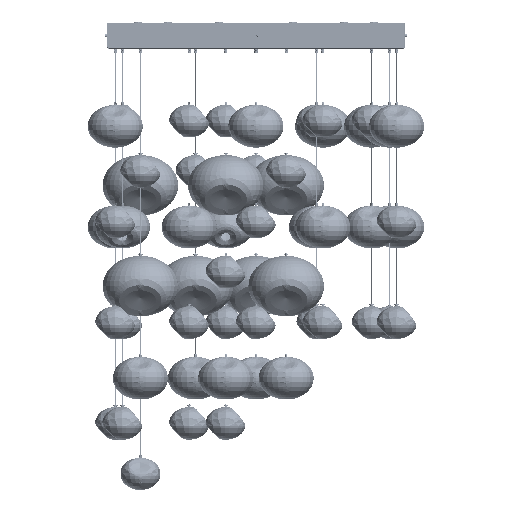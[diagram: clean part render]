
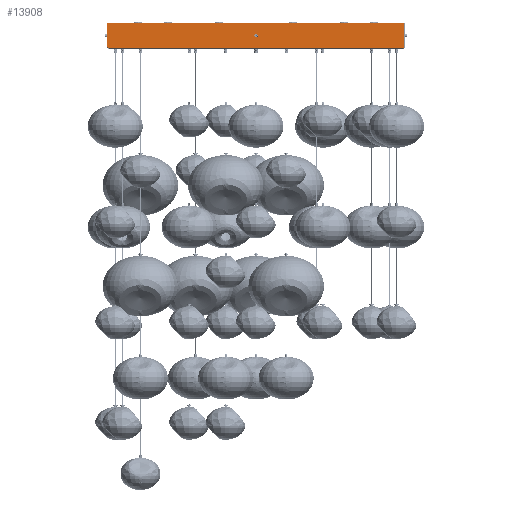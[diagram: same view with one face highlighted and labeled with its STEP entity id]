
A CAD part, front view. The second image highlights one B-rep face of the part: STEP entity #13908.
In plain terms, the highlighted planar face has unit normal (0, -1, 0) as drawn and (-1, 0, 0) by its records, which use the part's own axes.
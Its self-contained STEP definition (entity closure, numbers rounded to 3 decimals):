
#13334=FACE_BOUND('',#20106,.T.);
#13908=ADVANCED_FACE('',(#16956,#13334),#62096,.T.);
#16956=FACE_OUTER_BOUND('',#20105,.T.);
#20105=EDGE_LOOP('',(#24249,#24250,#24251,#24252,#24253,#24254));
#20106=EDGE_LOOP('',(#24255));
#24249=ORIENTED_EDGE('',*,*,#40210,.F.);
#24250=ORIENTED_EDGE('',*,*,#40211,.F.);
#24251=ORIENTED_EDGE('',*,*,#40212,.F.);
#24252=ORIENTED_EDGE('',*,*,#40229,.F.);
#24253=ORIENTED_EDGE('',*,*,#40207,.F.);
#24254=ORIENTED_EDGE('',*,*,#40203,.F.);
#24255=ORIENTED_EDGE('',*,*,#40369,.F.);
#40203=EDGE_CURVE('',#56475,#56476,#53295,.T.);
#40207=EDGE_CURVE('',#56476,#56479,#48241,.T.);
#40210=EDGE_CURVE('',#56481,#56475,#48244,.T.);
#40211=EDGE_CURVE('',#56482,#56481,#48245,.T.);
#40212=EDGE_CURVE('',#56483,#56482,#48246,.T.);
#40229=EDGE_CURVE('',#56479,#56483,#53302,.T.);
#40369=EDGE_CURVE('',#56484,#56484,#53353,.T.);
#48241=B_SPLINE_CURVE_WITH_KNOTS('',1,(#77574,#77575),.UNSPECIFIED.,.F.,
 .F.,(2,2),(0.,46.),.UNSPECIFIED.);
#48244=B_SPLINE_CURVE_WITH_KNOTS('',1,(#77580,#77581),.UNSPECIFIED.,.F.,
 .F.,(2,2),(-586.5,0.),.UNSPECIFIED.);
#48245=B_SPLINE_CURVE_WITH_KNOTS('',1,(#77582,#77583),.UNSPECIFIED.,.F.,
 .F.,(2,2),(-49.,0.),.UNSPECIFIED.);
#48246=B_SPLINE_CURVE_WITH_KNOTS('',1,(#77584,#77585),.UNSPECIFIED.,.F.,
 .F.,(2,2),(-586.5,0.),.UNSPECIFIED.);
#53295=(
BOUNDED_CURVE()
B_SPLINE_CURVE(2,(#77564,#77565,#77566),.UNSPECIFIED.,.F.,.F.)
B_SPLINE_CURVE_WITH_KNOTS((3,3),(0.,2.356),.UNSPECIFIED.)
CURVE()
GEOMETRIC_REPRESENTATION_ITEM()
RATIONAL_B_SPLINE_CURVE((1.,0.707,1.))
REPRESENTATION_ITEM('')
);
#53302=(
BOUNDED_CURVE()
B_SPLINE_CURVE(2,(#77623,#77624,#77625),.UNSPECIFIED.,.F.,.F.)
B_SPLINE_CURVE_WITH_KNOTS((3,3),(0.,2.356),.UNSPECIFIED.)
CURVE()
GEOMETRIC_REPRESENTATION_ITEM()
RATIONAL_B_SPLINE_CURVE((1.,0.707,1.))
REPRESENTATION_ITEM('')
);
#53353=(
BOUNDED_CURVE()
B_SPLINE_CURVE(2,(#77966,#77967,#77968,#77969,#77970,#77971,#77972,#77973,
#77974),.UNSPECIFIED.,.T.,.F.)
B_SPLINE_CURVE_WITH_KNOTS((3,2,2,2,3),(0.,3.927,7.854,
11.781,15.708),.UNSPECIFIED.)
CURVE()
GEOMETRIC_REPRESENTATION_ITEM()
RATIONAL_B_SPLINE_CURVE((1.,0.707,1.,0.707,1.,0.707,
1.,0.707,1.))
REPRESENTATION_ITEM('')
);
#56475=VERTEX_POINT('',#77319);
#56476=VERTEX_POINT('',#77320);
#56479=VERTEX_POINT('',#77323);
#56481=VERTEX_POINT('',#77325);
#56482=VERTEX_POINT('',#77326);
#56483=VERTEX_POINT('',#77327);
#56484=VERTEX_POINT('',#77328);
#62096=PLANE('',#69470);
#69470=AXIS2_PLACEMENT_3D('',#77056,#72194,$);
#72194=DIRECTION('',(-1.,0.,0.));
#77056=CARTESIAN_POINT('',(-295.,-28.52,351.92));
#77319=CARTESIAN_POINT('',(-295.,-23.5,-293.5));
#77320=CARTESIAN_POINT('',(-295.,-22.,-295.));
#77323=CARTESIAN_POINT('',(-295.,24.,-295.));
#77325=CARTESIAN_POINT('',(-295.,-23.5,293.));
#77326=CARTESIAN_POINT('',(-295.,25.5,293.));
#77327=CARTESIAN_POINT('',(-295.,25.5,-293.5));
#77328=CARTESIAN_POINT('',(-295.,0.5,2.5));
#77564=CARTESIAN_POINT('',(-295.,-23.5,-293.5));
#77565=CARTESIAN_POINT('',(-295.,-23.5,-295.));
#77566=CARTESIAN_POINT('',(-295.,-22.,-295.));
#77574=CARTESIAN_POINT('',(-295.,-22.,-295.));
#77575=CARTESIAN_POINT('',(-295.,24.,-295.));
#77580=CARTESIAN_POINT('',(-295.,-23.5,293.));
#77581=CARTESIAN_POINT('',(-295.,-23.5,-293.5));
#77582=CARTESIAN_POINT('',(-295.,25.5,293.));
#77583=CARTESIAN_POINT('',(-295.,-23.5,293.));
#77584=CARTESIAN_POINT('',(-295.,25.5,-293.5));
#77585=CARTESIAN_POINT('',(-295.,25.5,293.));
#77623=CARTESIAN_POINT('',(-295.,24.,-295.));
#77624=CARTESIAN_POINT('',(-295.,25.5,-295.));
#77625=CARTESIAN_POINT('',(-295.,25.5,-293.5));
#77966=CARTESIAN_POINT('',(-295.,0.5,2.5));
#77967=CARTESIAN_POINT('',(-295.,3.,2.5));
#77968=CARTESIAN_POINT('',(-295.,3.,0.));
#77969=CARTESIAN_POINT('',(-295.,3.,-2.5));
#77970=CARTESIAN_POINT('',(-295.,0.5,-2.5));
#77971=CARTESIAN_POINT('',(-295.,-2.,-2.5));
#77972=CARTESIAN_POINT('',(-295.,-2.,0.));
#77973=CARTESIAN_POINT('',(-295.,-2.,2.5));
#77974=CARTESIAN_POINT('',(-295.,0.5,2.5));
